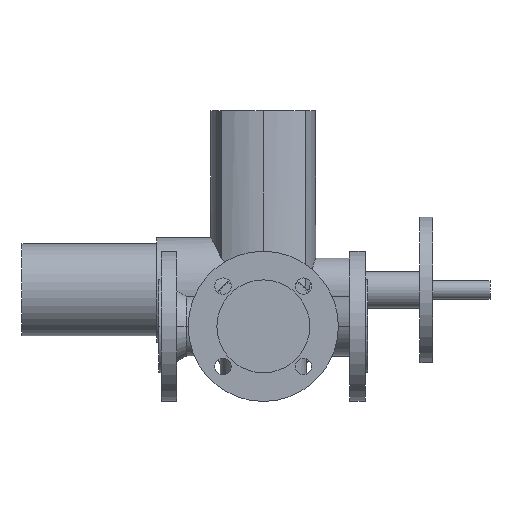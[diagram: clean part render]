
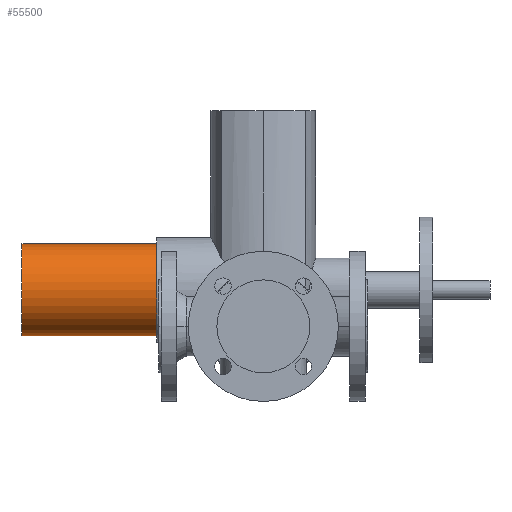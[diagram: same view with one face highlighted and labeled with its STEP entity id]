
A CAD part, front view. The second image highlights one B-rep face of the part: STEP entity #55500.
In plain terms, the highlighted cylindrical face has radius 50.5 mm (diameter 101 mm), a partial arc.
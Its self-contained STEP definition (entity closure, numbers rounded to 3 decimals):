
#55090=CARTESIAN_POINT('',(-76.,607.5,40.));
#55100=DIRECTION('',(1.,0.,0.));
#55110=DIRECTION('',(0.,0.,-1.));
#55120=AXIS2_PLACEMENT_3D('',#55090,#55100,#55110);
#55130=CYLINDRICAL_SURFACE('',#55120,50.5);
#55140=CARTESIAN_POINT('',(-76.,607.5,-10.5));
#55150=DIRECTION('',(1.,0.,0.));
#55160=VECTOR('',#55150,1.);
#55170=LINE('',#55140,#55160);
#55180=CARTESIAN_POINT('',(-150.,607.5,-10.5));
#55190=VERTEX_POINT('',#55180);
#55200=CARTESIAN_POINT('',(-2.,607.5,-10.5));
#55210=VERTEX_POINT('',#55200);
#55220=EDGE_CURVE('',#55190,#55210,#55170,.T.);
#55230=ORIENTED_EDGE('',*,*,#55220,.T.);
#55240=CARTESIAN_POINT('',(-150.,607.5,40.));
#55250=DIRECTION('',(-1.,0.,0.));
#55260=DIRECTION('',(0.,0.,-1.));
#55270=AXIS2_PLACEMENT_3D('',#55240,#55250,#55260);
#55280=CIRCLE('',#55270,50.5);
#55290=CARTESIAN_POINT('',(-150.,607.5,90.5));
#55300=VERTEX_POINT('',#55290);
#55310=EDGE_CURVE('',#55190,#55300,#55280,.T.);
#55320=ORIENTED_EDGE('',*,*,#55310,.F.);
#55330=CARTESIAN_POINT('',(-76.,607.5,90.5));
#55340=DIRECTION('',(1.,0.,0.));
#55350=VECTOR('',#55340,1.);
#55360=LINE('',#55330,#55350);
#55370=CARTESIAN_POINT('',(-2.,607.5,90.5));
#55380=VERTEX_POINT('',#55370);
#55390=EDGE_CURVE('',#55300,#55380,#55360,.T.);
#55400=ORIENTED_EDGE('',*,*,#55390,.F.);
#55410=CARTESIAN_POINT('',(-2.,607.5,40.));
#55420=DIRECTION('',(-1.,0.,0.));
#55430=DIRECTION('',(0.,0.,-1.));
#55440=AXIS2_PLACEMENT_3D('',#55410,#55420,#55430);
#55450=CIRCLE('',#55440,50.5);
#55460=EDGE_CURVE('',#55210,#55380,#55450,.T.);
#55470=ORIENTED_EDGE('',*,*,#55460,.T.);
#55480=EDGE_LOOP('',(#55470,#55400,#55320,#55230));
#55490=FACE_OUTER_BOUND('',#55480,.T.);
#55500=ADVANCED_FACE('',(#55490),#55130,.T.);
